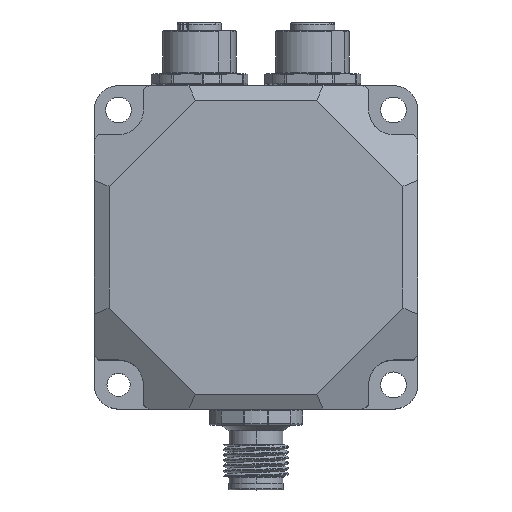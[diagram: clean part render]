
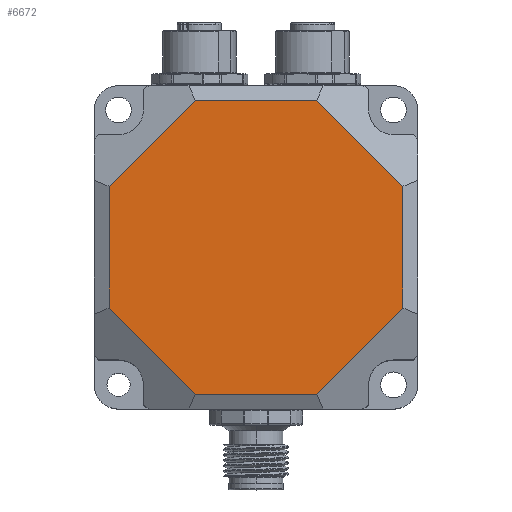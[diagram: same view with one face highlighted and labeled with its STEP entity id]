
A CAD part, top view. The second image highlights one B-rep face of the part: STEP entity #6672.
In plain terms, the highlighted planar face has unit normal (0, 0, 1).
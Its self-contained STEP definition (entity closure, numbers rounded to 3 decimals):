
#2486=DIRECTION('',(0.,1.,0.));
#2487=VECTOR('',#2486,22.575);
#2488=CARTESIAN_POINT('',(-27.25,-11.287,22.));
#2489=LINE('',#2488,#2487);
#2490=DIRECTION('',(0.707,0.707,0.));
#2491=VECTOR('',#2490,22.575);
#2492=CARTESIAN_POINT('',(-27.25,11.287,22.));
#2493=LINE('',#2492,#2491);
#2494=DIRECTION('',(1.,0.,0.));
#2495=VECTOR('',#2494,22.575);
#2496=CARTESIAN_POINT('',(-11.287,27.25,22.));
#2497=LINE('',#2496,#2495);
#2498=DIRECTION('',(-0.707,0.707,0.));
#2499=VECTOR('',#2498,22.575);
#2500=CARTESIAN_POINT('',(27.25,11.287,22.));
#2501=LINE('',#2500,#2499);
#2502=DIRECTION('',(0.,-1.,0.));
#2503=VECTOR('',#2502,22.575);
#2504=CARTESIAN_POINT('',(27.25,11.287,22.));
#2505=LINE('',#2504,#2503);
#2506=DIRECTION('',(-0.707,-0.707,0.));
#2507=VECTOR('',#2506,22.575);
#2508=CARTESIAN_POINT('',(27.25,-11.287,22.));
#2509=LINE('',#2508,#2507);
#2510=DIRECTION('',(-1.,0.,0.));
#2511=VECTOR('',#2510,22.575);
#2512=CARTESIAN_POINT('',(11.287,-27.25,22.));
#2513=LINE('',#2512,#2511);
#2514=DIRECTION('',(0.707,-0.707,0.));
#2515=VECTOR('',#2514,22.575);
#2516=CARTESIAN_POINT('',(-27.25,-11.287,22.));
#2517=LINE('',#2516,#2515);
#3158=CARTESIAN_POINT('',(-11.287,27.25,22.));
#3160=VERTEX_POINT('',#3158);
#3164=CARTESIAN_POINT('',(11.287,27.25,22.));
#3166=VERTEX_POINT('',#3164);
#3168=CARTESIAN_POINT('',(27.25,11.287,22.));
#3170=VERTEX_POINT('',#3168);
#3174=CARTESIAN_POINT('',(27.25,-11.287,22.));
#3176=VERTEX_POINT('',#3174);
#3178=CARTESIAN_POINT('',(11.287,-27.25,22.));
#3180=VERTEX_POINT('',#3178);
#3184=CARTESIAN_POINT('',(-11.287,-27.25,22.));
#3186=VERTEX_POINT('',#3184);
#3188=CARTESIAN_POINT('',(-27.25,-11.287,22.));
#3189=CARTESIAN_POINT('',(-27.25,11.287,22.));
#3190=VERTEX_POINT('',#3188);
#3191=VERTEX_POINT('',#3189);
#6655=CARTESIAN_POINT('',(0.,0.,22.));
#6656=DIRECTION('',(0.,0.,1.));
#6657=DIRECTION('',(1.,0.,0.));
#6658=AXIS2_PLACEMENT_3D('',#6655,#6656,#6657);
#6659=PLANE('',#6658);
#6661=ORIENTED_EDGE('',*,*,#6660,.T.);
#6662=ORIENTED_EDGE('',*,*,#6558,.T.);
#6663=ORIENTED_EDGE('',*,*,#6648,.T.);
#6664=ORIENTED_EDGE('',*,*,#3908,.F.);
#6666=ORIENTED_EDGE('',*,*,#6665,.T.);
#6667=ORIENTED_EDGE('',*,*,#6196,.T.);
#6668=ORIENTED_EDGE('',*,*,#6287,.T.);
#6669=ORIENTED_EDGE('',*,*,#6321,.F.);
#6670=EDGE_LOOP('',(#6661,#6662,#6663,#6664,#6666,#6667,#6668,#6669));
#6671=FACE_OUTER_BOUND('',#6670,.F.);
#3908=EDGE_CURVE('',#3170,#3166,#2501,.T.);
#6196=EDGE_CURVE('',#3176,#3180,#2509,.T.);
#6287=EDGE_CURVE('',#3180,#3186,#2513,.T.);
#6321=EDGE_CURVE('',#3190,#3186,#2517,.T.);
#6558=EDGE_CURVE('',#3191,#3160,#2493,.T.);
#6648=EDGE_CURVE('',#3160,#3166,#2497,.T.);
#6660=EDGE_CURVE('',#3190,#3191,#2489,.T.);
#6665=EDGE_CURVE('',#3170,#3176,#2505,.T.);
#6672=ADVANCED_FACE('',(#6671),#6659,.T.);
